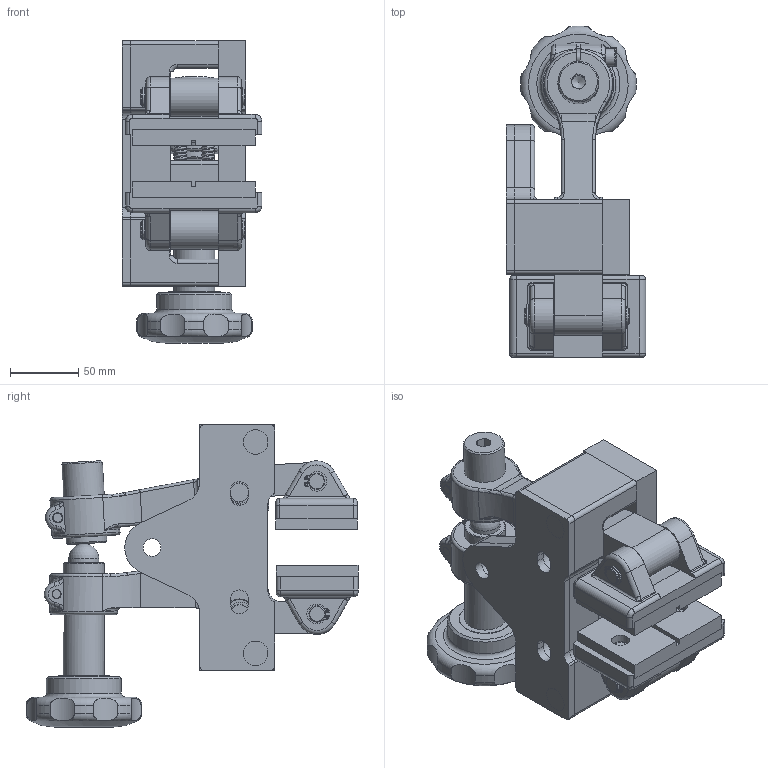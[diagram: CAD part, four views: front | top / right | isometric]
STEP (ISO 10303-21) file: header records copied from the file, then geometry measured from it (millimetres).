
FILE_DESCRIPTION(/* description */ ('','CAx-IF Rec.Pracs.---Representation and Presentation of Product Manufacturing Information (PMI)---4.0---2014-10-13'),/* implementation_level */ '2;1');
FILE_NAME(/* name */ 'X:\INVENTOR\DISEGNI\19_Pinze\STEP x Sito\19_06_030_04 PMH030_25,4.stp',/* time_stamp */ '2018-01-31T16:16:12+01:00',/* author */ ('stefano'),/* organization */ (''),/* preprocessor_version */ 'ST-DEVELOPER v17',/* originating_system */ 'Autodesk Inventor 2018',/* authorisation */ '');
FILE_SCHEMA (('AP242_MANAGED_MODEL_BASED_3D_ENGINEERING_MIM_LF { 1 0 10303 442 1 1 4 }'));
Length unit declared in the file: millimetre
Products named in the file (1): 19_06_030_04 PMH030_25,4_Substitute_1
Bounding box: 102.5 x 243.44 x 221.6 mm (x, y, z)
Volume: 1556056.8 mm3; surface area: 231122.2 mm2
Topology: 2 solids, 2 shells, 875 faces, 2366 edges, 1526 vertices
Faces by surface type: plane 419, cylinder 274, bspline 73, torus 56, cone 52, sphere 1
Full cylindrical faces by diameter (mm): 1.7 x18, 6 x4, 6.5 x4, 6.647 x1, 8 x2, 8.5 x2, 9.5 x2, 10 x1, 11.5 x4, 12 x14, 13 x8, 13.4 x6, 13.5 x2, 14 x12, 16 x4, 16.5 x4, 21 x3, 22 x1, 22.3 x1, 28.4 x1, 30 x2, 31 x1, 38 x2, 55 x1
Entity records: 33812 total; most frequent: CARTESIAN_POINT 10816, DIRECTION 4721, ORIENTED_EDGE 4680, EDGE_CURVE 2340, AXIS2_PLACEMENT_3D 1784, VERTEX_POINT 1526, LINE 1153, VECTOR 1153
